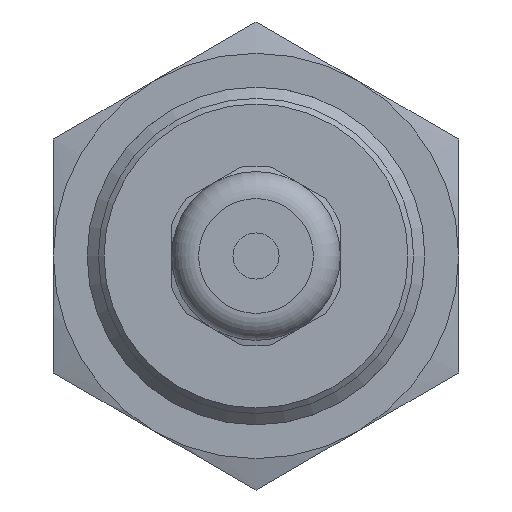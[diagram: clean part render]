
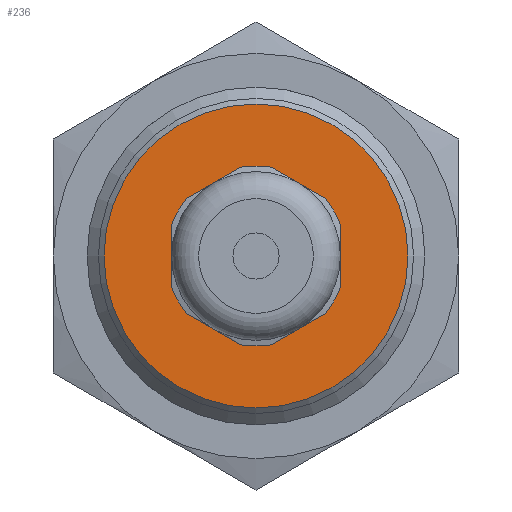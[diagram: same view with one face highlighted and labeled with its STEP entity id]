
A CAD part, front view. The second image highlights one B-rep face of the part: STEP entity #236.
In plain terms, the highlighted planar face has unit normal (0, -1, 0).
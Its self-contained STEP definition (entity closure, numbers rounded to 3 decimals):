
#76=PLANE('',#1516);
#236=ADVANCED_FACE('',(#347,#348),#76,.F.);
#347=FACE_BOUND('',#377,.T.);
#348=FACE_BOUND('',#378,.T.);
#377=EDGE_LOOP('',(#677,#678,#679,#680,#681,#682,#683,#684,#685,#686,#687,
#688));
#378=EDGE_LOOP('',(#689));
#479=CIRCLE('',#1509,8.);
#480=CIRCLE('',#1510,8.);
#481=CIRCLE('',#1511,8.);
#482=CIRCLE('',#1512,8.);
#483=CIRCLE('',#1513,8.);
#484=CIRCLE('',#1514,8.);
#485=CIRCLE('',#1515,13.5);
#545=LINE('',#2099,#597);
#546=LINE('',#2103,#598);
#547=LINE('',#2107,#599);
#548=LINE('',#2111,#600);
#549=LINE('',#2115,#601);
#550=LINE('',#2119,#602);
#597=VECTOR('',#1694,1.);
#598=VECTOR('',#1697,1.);
#599=VECTOR('',#1700,1.);
#600=VECTOR('',#1703,1.);
#601=VECTOR('',#1706,1.);
#602=VECTOR('',#1709,1.);
#677=ORIENTED_EDGE('',*,*,#1211,.T.);
#678=ORIENTED_EDGE('',*,*,#1212,.T.);
#679=ORIENTED_EDGE('',*,*,#1213,.T.);
#680=ORIENTED_EDGE('',*,*,#1214,.T.);
#681=ORIENTED_EDGE('',*,*,#1215,.T.);
#682=ORIENTED_EDGE('',*,*,#1216,.T.);
#683=ORIENTED_EDGE('',*,*,#1217,.T.);
#684=ORIENTED_EDGE('',*,*,#1218,.T.);
#685=ORIENTED_EDGE('',*,*,#1219,.T.);
#686=ORIENTED_EDGE('',*,*,#1220,.T.);
#687=ORIENTED_EDGE('',*,*,#1221,.T.);
#688=ORIENTED_EDGE('',*,*,#1222,.T.);
#689=ORIENTED_EDGE('',*,*,#1223,.F.);
#1074=VERTEX_POINT('',#2097);
#1075=VERTEX_POINT('',#2098);
#1076=VERTEX_POINT('',#2100);
#1077=VERTEX_POINT('',#2102);
#1078=VERTEX_POINT('',#2104);
#1079=VERTEX_POINT('',#2106);
#1080=VERTEX_POINT('',#2108);
#1081=VERTEX_POINT('',#2110);
#1082=VERTEX_POINT('',#2112);
#1083=VERTEX_POINT('',#2114);
#1084=VERTEX_POINT('',#2116);
#1085=VERTEX_POINT('',#2118);
#1086=VERTEX_POINT('',#2121);
#1211=EDGE_CURVE('',#1074,#1075,#479,.T.);
#1212=EDGE_CURVE('',#1075,#1076,#545,.T.);
#1213=EDGE_CURVE('',#1076,#1077,#480,.T.);
#1214=EDGE_CURVE('',#1077,#1078,#546,.T.);
#1215=EDGE_CURVE('',#1078,#1079,#481,.T.);
#1216=EDGE_CURVE('',#1079,#1080,#547,.T.);
#1217=EDGE_CURVE('',#1080,#1081,#482,.T.);
#1218=EDGE_CURVE('',#1081,#1082,#548,.T.);
#1219=EDGE_CURVE('',#1082,#1083,#483,.T.);
#1220=EDGE_CURVE('',#1083,#1084,#549,.T.);
#1221=EDGE_CURVE('',#1084,#1085,#484,.T.);
#1222=EDGE_CURVE('',#1085,#1074,#550,.T.);
#1223=EDGE_CURVE('',#1086,#1086,#485,.T.);
#1509=AXIS2_PLACEMENT_3D('',#2096,#1692,#1693);
#1510=AXIS2_PLACEMENT_3D('',#2101,#1695,#1696);
#1511=AXIS2_PLACEMENT_3D('',#2105,#1698,#1699);
#1512=AXIS2_PLACEMENT_3D('',#2109,#1701,#1702);
#1513=AXIS2_PLACEMENT_3D('',#2113,#1704,#1705);
#1514=AXIS2_PLACEMENT_3D('',#2117,#1707,#1708);
#1515=AXIS2_PLACEMENT_3D('',#2120,#1710,#1711);
#1516=AXIS2_PLACEMENT_3D('',#2122,#1712,#1713);
#1692=DIRECTION('',(0.,1.,0.));
#1693=DIRECTION('',(-0.991,0.,-0.135));
#1694=DIRECTION('',(0.866,0.,-0.5));
#1695=DIRECTION('',(0.,1.,0.));
#1696=DIRECTION('',(-0.991,0.,-0.135));
#1697=DIRECTION('',(0.,0.,-1.));
#1698=DIRECTION('',(0.,1.,0.));
#1699=DIRECTION('',(-0.991,0.,-0.135));
#1700=DIRECTION('',(-0.866,0.,-0.5));
#1701=DIRECTION('',(0.,1.,0.));
#1702=DIRECTION('',(-0.991,0.,-0.135));
#1703=DIRECTION('',(-0.866,0.,0.5));
#1704=DIRECTION('',(0.,1.,0.));
#1705=DIRECTION('',(-0.991,0.,-0.135));
#1706=DIRECTION('',(0.,0.,1.));
#1707=DIRECTION('',(0.,1.,0.));
#1708=DIRECTION('',(-0.991,0.,-0.135));
#1709=DIRECTION('',(0.866,0.,0.5));
#1710=DIRECTION('',(0.,1.,0.));
#1711=DIRECTION('',(1.,0.,0.));
#1712=DIRECTION('',(0.,1.,0.));
#1713=DIRECTION('',(1.,0.,0.));
#2096=CARTESIAN_POINT('',(0.,-44.,0.));
#2097=CARTESIAN_POINT('',(-1.339,-44.,7.887));
#2098=CARTESIAN_POINT('',(1.339,-44.,7.887));
#2099=CARTESIAN_POINT('',(1.339,-44.,7.887));
#2100=CARTESIAN_POINT('',(6.161,-44.,5.103));
#2101=CARTESIAN_POINT('',(0.,-44.,0.));
#2102=CARTESIAN_POINT('',(7.5,-44.,2.784));
#2103=CARTESIAN_POINT('',(7.5,-44.,2.784));
#2104=CARTESIAN_POINT('',(7.5,-44.,-2.784));
#2105=CARTESIAN_POINT('',(0.,-44.,0.));
#2106=CARTESIAN_POINT('',(6.161,-44.,-5.103));
#2107=CARTESIAN_POINT('',(6.161,-44.,-5.103));
#2108=CARTESIAN_POINT('',(1.339,-44.,-7.887));
#2109=CARTESIAN_POINT('',(0.,-44.,0.));
#2110=CARTESIAN_POINT('',(-1.339,-44.,-7.887));
#2111=CARTESIAN_POINT('',(-1.339,-44.,-7.887));
#2112=CARTESIAN_POINT('',(-6.161,-44.,-5.103));
#2113=CARTESIAN_POINT('',(0.,-44.,0.));
#2114=CARTESIAN_POINT('',(-7.5,-44.,-2.784));
#2115=CARTESIAN_POINT('',(-7.5,-44.,-2.784));
#2116=CARTESIAN_POINT('',(-7.5,-44.,2.784));
#2117=CARTESIAN_POINT('',(0.,-44.,0.));
#2118=CARTESIAN_POINT('',(-6.161,-44.,5.103));
#2119=CARTESIAN_POINT('',(-6.161,-44.,5.103));
#2120=CARTESIAN_POINT('',(0.,-44.,0.));
#2121=CARTESIAN_POINT('',(13.5,-44.,0.));
#2122=CARTESIAN_POINT('',(0.,-44.,-7.));
